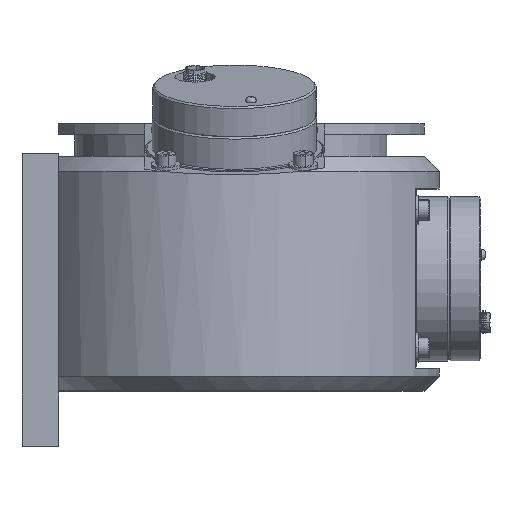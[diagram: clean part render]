
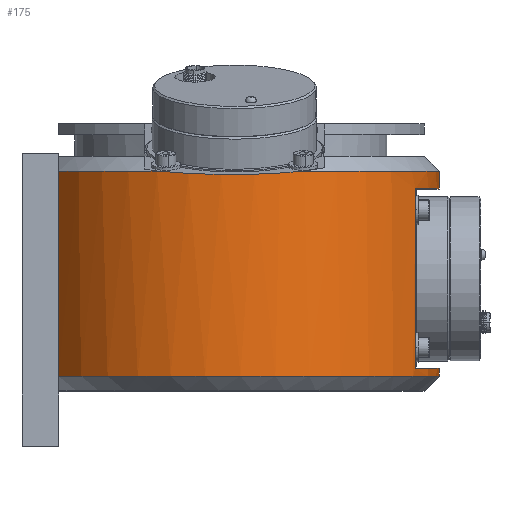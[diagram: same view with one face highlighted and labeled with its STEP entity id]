
A CAD part, top view. The second image highlights one B-rep face of the part: STEP entity #175.
In plain terms, the highlighted cylindrical face has radius 57 mm (diameter 114 mm), a partial arc.
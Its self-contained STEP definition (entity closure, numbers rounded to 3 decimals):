
#175 = ADVANCED_FACE ( 'NONE', ( #5089, #5091 ), #5090, .T. ) ;
#1284 = EDGE_LOOP ( 'NONE', ( #3115, #3116, #3117, #3118, #3119, #3120, #3121 ) ) ;
#1290 = EDGE_LOOP ( 'NONE', ( #3111, #3112, #3113, #3114 ) ) ;
#1791 = EDGE_CURVE ( 'NONE', #4478, #4479, #13030, .T. ) ;
#1806 = EDGE_CURVE ( 'NONE', #4487, #4490, #12829, .T. ) ;
#1809 = EDGE_CURVE ( 'NONE', #4491, #4479, #12845, .T. ) ;
#1857 = EDGE_CURVE ( 'NONE', #4487, #4499, #13122, .T. ) ;
#1861 = EDGE_CURVE ( 'NONE', #4513, #4478, #13123, .T. ) ;
#1862 = EDGE_CURVE ( 'NONE', #4516, #4517, #13400, .T. ) ;
#1863 = EDGE_CURVE ( 'NONE', #4516, #4520, #13126, .T. ) ;
#1864 = EDGE_CURVE ( 'NONE', #4520, #4521, #13411, .T. ) ;
#1865 = EDGE_CURVE ( 'NONE', #4517, #4521, #13129, .T. ) ;
#1866 = EDGE_CURVE ( 'NONE', #4499, #4513, #13151, .T. ) ;
#1867 = EDGE_CURVE ( 'NONE', #4490, #4491, #14219, .T. ) ;
#3111 = ORIENTED_EDGE ( 'NONE', *, *, #1862, .F. ) ;
#3112 = ORIENTED_EDGE ( 'NONE', *, *, #1863, .T. ) ;
#3113 = ORIENTED_EDGE ( 'NONE', *, *, #1864, .T. ) ;
#3114 = ORIENTED_EDGE ( 'NONE', *, *, #1865, .F. ) ;
#3115 = ORIENTED_EDGE ( 'NONE', *, *, #1866, .F. ) ;
#3116 = ORIENTED_EDGE ( 'NONE', *, *, #1857, .F. ) ;
#3117 = ORIENTED_EDGE ( 'NONE', *, *, #1806, .T. ) ;
#3118 = ORIENTED_EDGE ( 'NONE', *, *, #1867, .T. ) ;
#3119 = ORIENTED_EDGE ( 'NONE', *, *, #1809, .T. ) ;
#3120 = ORIENTED_EDGE ( 'NONE', *, *, #1791, .F. ) ;
#3121 = ORIENTED_EDGE ( 'NONE', *, *, #1861, .F. ) ;
#4478 = VERTEX_POINT ( 'NONE', #14715 ) ;
#4479 = VERTEX_POINT ( 'NONE', #14716 ) ;
#4487 = VERTEX_POINT ( 'NONE', #14723 ) ;
#4490 = VERTEX_POINT ( 'NONE', #14726 ) ;
#4491 = VERTEX_POINT ( 'NONE', #14727 ) ;
#4499 = VERTEX_POINT ( 'NONE', #14735 ) ;
#4513 = VERTEX_POINT ( 'NONE', #14749 ) ;
#4516 = VERTEX_POINT ( 'NONE', #14752 ) ;
#4517 = VERTEX_POINT ( 'NONE', #14753 ) ;
#4520 = VERTEX_POINT ( 'NONE', #14756 ) ;
#4521 = VERTEX_POINT ( 'NONE', #14757 ) ;
#5077 = DIRECTION ( 'NONE',  ( -1., 0., 0. ) ) ;
#5088 = DIRECTION ( 'NONE',  ( 0., 1., 0. ) ) ;
#5089 = FACE_BOUND ( 'NONE', #1290, .T. ) ;
#5090 = CYLINDRICAL_SURFACE ( 'NONE', #5166, 57. ) ;
#5091 = FACE_OUTER_BOUND ( 'NONE', #1284, .T. ) ;
#5092 = CARTESIAN_POINT ( 'NONE',  ( 0., 73., 0. ) ) ;
#5166 = AXIS2_PLACEMENT_3D ( 'NONE', #5092, #5088, #5077 ) ;
#11782 = AXIS2_PLACEMENT_3D ( 'NONE', #13417, #13418, #13419 ) ;
#12790 = CARTESIAN_POINT ( 'NONE',  ( 0., 60., 0. ) ) ;
#12791 = DIRECTION ( 'NONE',  ( 0., 1., 0. ) ) ;
#12792 = DIRECTION ( 'NONE',  ( -1., 0., 0. ) ) ;
#12829 = LINE ( 'NONE', #12830, #13053 ) ;
#12830 = CARTESIAN_POINT ( 'NONE',  ( -47., 73., 32.249 ) ) ;
#12839 = DIRECTION ( 'NONE',  ( 0., -1., 0. ) ) ;
#12845 = LINE ( 'NONE', #12846, #13055 ) ;
#12846 = CARTESIAN_POINT ( 'NONE',  ( -47., 73., -32.249 ) ) ;
#12847 = DIRECTION ( 'NONE',  ( 0., 1., 0. ) ) ;
#13030 = CIRCLE ( 'NONE', #13035, 57. ) ;
#13035 = AXIS2_PLACEMENT_3D ( 'NONE', #12790, #12791, #12792 ) ;
#13053 = VECTOR ( 'NONE', #12839, 1000. ) ;
#13055 = VECTOR ( 'NONE', #12847, 1000. ) ;
#13117 = AXIS2_PLACEMENT_3D ( 'NONE', #13392, #13393, #13394 ) ;
#13122 = CIRCLE ( 'NONE', #13117, 57. ) ;
#13123 = CIRCLE ( 'NONE', #13124, 57. ) ;
#13124 = AXIS2_PLACEMENT_3D ( 'NONE', #13406, #13407, #13408 ) ;
#13125 = VECTOR ( 'NONE', #13410, 1000. ) ;
#13126 = CIRCLE ( 'NONE', #13128, 57. ) ;
#13127 = VECTOR ( 'NONE', #13415, 1000. ) ;
#13128 = AXIS2_PLACEMENT_3D ( 'NONE', #13412, #13413, #13414 ) ;
#13129 = CIRCLE ( 'NONE', #11782, 57. ) ;
#13151 =( BOUNDED_CURVE ( )  B_SPLINE_CURVE ( 3, ( #13416, #13420, #13421, #13422 ),
 .UNSPECIFIED., .F., .T. ) 
 B_SPLINE_CURVE_WITH_KNOTS ( ( 4, 4 ),
 ( 2.782, 3.502 ),
 .UNSPECIFIED. ) 
 CURVE ( )  GEOMETRIC_REPRESENTATION_ITEM ( )  RATIONAL_B_SPLINE_CURVE ( ( 1., 0.957, 0.957, 1. ) ) 
 REPRESENTATION_ITEM ( '' )  );
#13392 = CARTESIAN_POINT ( 'NONE',  ( 0., 60., 0. ) ) ;
#13393 = DIRECTION ( 'NONE',  ( 0., 1., 0. ) ) ;
#13394 = DIRECTION ( 'NONE',  ( -1., 0., 0. ) ) ;
#13400 = LINE ( 'NONE', #13402, #13125 ) ;
#13402 = CARTESIAN_POINT ( 'NONE',  ( 50.48, 55.17, 26.472 ) ) ;
#13406 = CARTESIAN_POINT ( 'NONE',  ( 0., 60., 0. ) ) ;
#13407 = DIRECTION ( 'NONE',  ( 0., 1., 0. ) ) ;
#13408 = DIRECTION ( 'NONE',  ( -1., 0., 0. ) ) ;
#13409 = CARTESIAN_POINT ( 'NONE',  ( 50.48, 55.17, -26.472 ) ) ;
#13410 = DIRECTION ( 'NONE',  ( 0., -1., 0. ) ) ;
#13411 = LINE ( 'NONE', #13409, #13127 ) ;
#13412 = CARTESIAN_POINT ( 'NONE',  ( 0., 55.17, 0. ) ) ;
#13413 = DIRECTION ( 'NONE',  ( 0., 1., 0. ) ) ;
#13414 = DIRECTION ( 'NONE',  ( 0., 0., 1. ) ) ;
#13415 = DIRECTION ( 'NONE',  ( 0., -1., 0. ) ) ;
#13416 = CARTESIAN_POINT ( 'NONE',  ( -20.084, 60., 53.344 ) ) ;
#13417 = CARTESIAN_POINT ( 'NONE',  ( 0., 6.17, 0. ) ) ;
#13418 = DIRECTION ( 'NONE',  ( 0., 1., 0. ) ) ;
#13419 = DIRECTION ( 'NONE',  ( 0., 0., 1. ) ) ;
#13420 = CARTESIAN_POINT ( 'NONE',  ( -6.994, 58.679, 58.273 ) ) ;
#13421 = CARTESIAN_POINT ( 'NONE',  ( 6.994, 58.679, 58.273 ) ) ;
#13422 = CARTESIAN_POINT ( 'NONE',  ( 20.084, 60., 53.344 ) ) ;
#13423 = CARTESIAN_POINT ( 'NONE',  ( 0., 4., 0. ) ) ;
#13424 = DIRECTION ( 'NONE',  ( 0., 1., 0. ) ) ;
#13425 = DIRECTION ( 'NONE',  ( -1., 0., 0. ) ) ;
#14219 = CIRCLE ( 'NONE', #14220, 57. ) ;
#14220 = AXIS2_PLACEMENT_3D ( 'NONE', #13423, #13424, #13425 ) ;
#14715 = CARTESIAN_POINT ( 'NONE',  ( 57., 60., 0. ) ) ;
#14716 = CARTESIAN_POINT ( 'NONE',  ( -47., 60., -32.249 ) ) ;
#14723 = CARTESIAN_POINT ( 'NONE',  ( -47., 60., 32.249 ) ) ;
#14726 = CARTESIAN_POINT ( 'NONE',  ( -47., 4., 32.249 ) ) ;
#14727 = CARTESIAN_POINT ( 'NONE',  ( -47., 4., -32.249 ) ) ;
#14735 = CARTESIAN_POINT ( 'NONE',  ( -20.084, 60., 53.344 ) ) ;
#14749 = CARTESIAN_POINT ( 'NONE',  ( 20.084, 60., 53.344 ) ) ;
#14752 = CARTESIAN_POINT ( 'NONE',  ( 50.48, 55.17, 26.472 ) ) ;
#14753 = CARTESIAN_POINT ( 'NONE',  ( 50.48, 6.17, 26.472 ) ) ;
#14756 = CARTESIAN_POINT ( 'NONE',  ( 50.48, 55.17, -26.472 ) ) ;
#14757 = CARTESIAN_POINT ( 'NONE',  ( 50.48, 6.17, -26.472 ) ) ;
